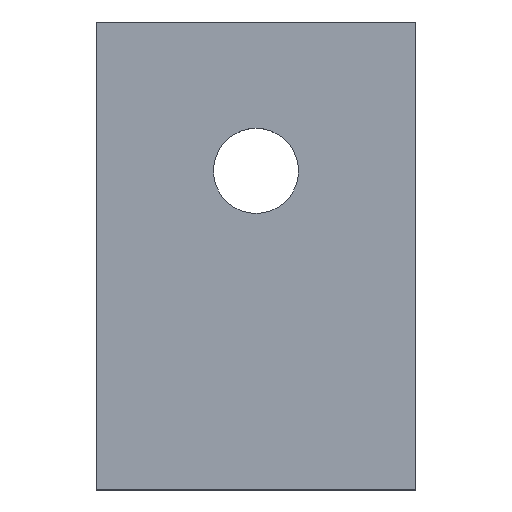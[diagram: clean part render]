
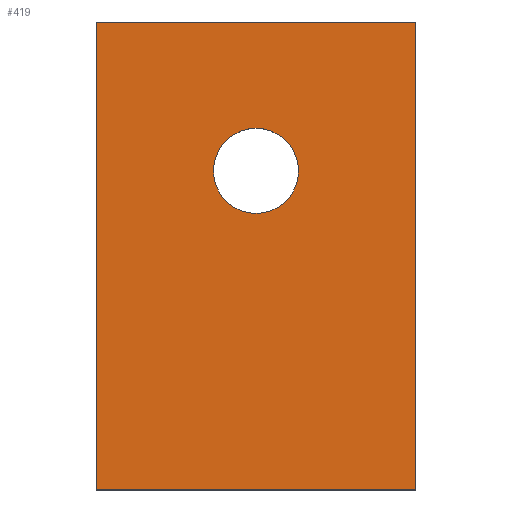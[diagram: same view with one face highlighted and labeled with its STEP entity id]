
A CAD part, top view. The second image highlights one B-rep face of the part: STEP entity #419.
In plain terms, the highlighted planar face has unit normal (0, 0, 1).
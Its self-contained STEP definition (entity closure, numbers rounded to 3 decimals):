
#24 = VERTEX_POINT('',#25);
#25 = CARTESIAN_POINT('',(-75.,0.,20.));
#32 = PLANE('',#33);
#33 = AXIS2_PLACEMENT_3D('',#34,#35,#36);
#34 = CARTESIAN_POINT('',(-75.,0.,0.));
#35 = DIRECTION('',(0.,1.,0.));
#36 = DIRECTION('',(1.,0.,0.));
#44 = PLANE('',#45);
#45 = AXIS2_PLACEMENT_3D('',#46,#47,#48);
#46 = CARTESIAN_POINT('',(-75.,220.,0.));
#47 = DIRECTION('',(1.,0.,-0.));
#48 = DIRECTION('',(0.,-1.,0.));
#56 = EDGE_CURVE('',#24,#57,#59,.T.);
#57 = VERTEX_POINT('',#58);
#58 = CARTESIAN_POINT('',(75.,0.,20.));
#59 = SURFACE_CURVE('',#60,(#64,#71),.PCURVE_S1.);
#60 = LINE('',#61,#62);
#61 = CARTESIAN_POINT('',(-75.,0.,20.));
#62 = VECTOR('',#63,1.);
#63 = DIRECTION('',(1.,0.,0.));
#64 = PCURVE('',#32,#65);
#65 = DEFINITIONAL_REPRESENTATION('',(#66),#70);
#66 = LINE('',#67,#68);
#67 = CARTESIAN_POINT('',(0.,-20.));
#68 = VECTOR('',#69,1.);
#69 = DIRECTION('',(1.,0.));
#70 = ( GEOMETRIC_REPRESENTATION_CONTEXT(2) 
PARAMETRIC_REPRESENTATION_CONTEXT() REPRESENTATION_CONTEXT('2D SPACE',''
  ) );
#71 = PCURVE('',#72,#77);
#72 = PLANE('',#73);
#73 = AXIS2_PLACEMENT_3D('',#74,#75,#76);
#74 = CARTESIAN_POINT('',(0.,110.,20.));
#75 = DIRECTION('',(0.,0.,1.));
#76 = DIRECTION('',(1.,0.,-0.));
#77 = DEFINITIONAL_REPRESENTATION('',(#78),#82);
#78 = LINE('',#79,#80);
#79 = CARTESIAN_POINT('',(-75.,-110.));
#80 = VECTOR('',#81,1.);
#81 = DIRECTION('',(1.,0.));
#82 = ( GEOMETRIC_REPRESENTATION_CONTEXT(2) 
PARAMETRIC_REPRESENTATION_CONTEXT() REPRESENTATION_CONTEXT('2D SPACE',''
  ) );
#100 = PLANE('',#101);
#101 = AXIS2_PLACEMENT_3D('',#102,#103,#104);
#102 = CARTESIAN_POINT('',(75.,0.,0.));
#103 = DIRECTION('',(-1.,0.,0.));
#104 = DIRECTION('',(0.,1.,0.));
#142 = EDGE_CURVE('',#57,#143,#145,.T.);
#143 = VERTEX_POINT('',#144);
#144 = CARTESIAN_POINT('',(75.,220.,20.));
#145 = SURFACE_CURVE('',#146,(#150,#157),.PCURVE_S1.);
#146 = LINE('',#147,#148);
#147 = CARTESIAN_POINT('',(75.,0.,20.));
#148 = VECTOR('',#149,1.);
#149 = DIRECTION('',(0.,1.,0.));
#150 = PCURVE('',#100,#151);
#151 = DEFINITIONAL_REPRESENTATION('',(#152),#156);
#152 = LINE('',#153,#154);
#153 = CARTESIAN_POINT('',(0.,-20.));
#154 = VECTOR('',#155,1.);
#155 = DIRECTION('',(1.,0.));
#156 = ( GEOMETRIC_REPRESENTATION_CONTEXT(2) 
PARAMETRIC_REPRESENTATION_CONTEXT() REPRESENTATION_CONTEXT('2D SPACE',''
  ) );
#157 = PCURVE('',#72,#158);
#158 = DEFINITIONAL_REPRESENTATION('',(#159),#163);
#159 = LINE('',#160,#161);
#160 = CARTESIAN_POINT('',(75.,-110.));
#161 = VECTOR('',#162,1.);
#162 = DIRECTION('',(0.,1.));
#163 = ( GEOMETRIC_REPRESENTATION_CONTEXT(2) 
PARAMETRIC_REPRESENTATION_CONTEXT() REPRESENTATION_CONTEXT('2D SPACE',''
  ) );
#181 = PLANE('',#182);
#182 = AXIS2_PLACEMENT_3D('',#183,#184,#185);
#183 = CARTESIAN_POINT('',(75.,220.,0.));
#184 = DIRECTION('',(0.,-1.,0.));
#185 = DIRECTION('',(-1.,0.,0.));
#218 = EDGE_CURVE('',#143,#219,#221,.T.);
#219 = VERTEX_POINT('',#220);
#220 = CARTESIAN_POINT('',(-75.,220.,20.));
#221 = SURFACE_CURVE('',#222,(#226,#233),.PCURVE_S1.);
#222 = LINE('',#223,#224);
#223 = CARTESIAN_POINT('',(75.,220.,20.));
#224 = VECTOR('',#225,1.);
#225 = DIRECTION('',(-1.,0.,0.));
#226 = PCURVE('',#181,#227);
#227 = DEFINITIONAL_REPRESENTATION('',(#228),#232);
#228 = LINE('',#229,#230);
#229 = CARTESIAN_POINT('',(0.,-20.));
#230 = VECTOR('',#231,1.);
#231 = DIRECTION('',(1.,0.));
#232 = ( GEOMETRIC_REPRESENTATION_CONTEXT(2) 
PARAMETRIC_REPRESENTATION_CONTEXT() REPRESENTATION_CONTEXT('2D SPACE',''
  ) );
#233 = PCURVE('',#72,#234);
#234 = DEFINITIONAL_REPRESENTATION('',(#235),#239);
#235 = LINE('',#236,#237);
#236 = CARTESIAN_POINT('',(75.,110.));
#237 = VECTOR('',#238,1.);
#238 = DIRECTION('',(-1.,0.));
#239 = ( GEOMETRIC_REPRESENTATION_CONTEXT(2) 
PARAMETRIC_REPRESENTATION_CONTEXT() REPRESENTATION_CONTEXT('2D SPACE',''
  ) );
#289 = EDGE_CURVE('',#219,#24,#290,.T.);
#290 = SURFACE_CURVE('',#291,(#295,#302),.PCURVE_S1.);
#291 = LINE('',#292,#293);
#292 = CARTESIAN_POINT('',(-75.,220.,20.));
#293 = VECTOR('',#294,1.);
#294 = DIRECTION('',(0.,-1.,0.));
#295 = PCURVE('',#44,#296);
#296 = DEFINITIONAL_REPRESENTATION('',(#297),#301);
#297 = LINE('',#298,#299);
#298 = CARTESIAN_POINT('',(0.,-20.));
#299 = VECTOR('',#300,1.);
#300 = DIRECTION('',(1.,0.));
#301 = ( GEOMETRIC_REPRESENTATION_CONTEXT(2) 
PARAMETRIC_REPRESENTATION_CONTEXT() REPRESENTATION_CONTEXT('2D SPACE',''
  ) );
#302 = PCURVE('',#72,#303);
#303 = DEFINITIONAL_REPRESENTATION('',(#304),#308);
#304 = LINE('',#305,#306);
#305 = CARTESIAN_POINT('',(-75.,110.));
#306 = VECTOR('',#307,1.);
#307 = DIRECTION('',(0.,-1.));
#308 = ( GEOMETRIC_REPRESENTATION_CONTEXT(2) 
PARAMETRIC_REPRESENTATION_CONTEXT() REPRESENTATION_CONTEXT('2D SPACE',''
  ) );
#338 = VERTEX_POINT('',#339);
#339 = CARTESIAN_POINT('',(20.,150.,20.));
#346 = CYLINDRICAL_SURFACE('',#347,20.);
#347 = AXIS2_PLACEMENT_3D('',#348,#349,#350);
#348 = CARTESIAN_POINT('',(0.,150.,0.));
#349 = DIRECTION('',(-0.,-0.,-1.));
#350 = DIRECTION('',(1.,0.,-0.));
#365 = EDGE_CURVE('',#338,#338,#366,.T.);
#366 = SURFACE_CURVE('',#367,(#372,#379),.PCURVE_S1.);
#367 = CIRCLE('',#368,20.);
#368 = AXIS2_PLACEMENT_3D('',#369,#370,#371);
#369 = CARTESIAN_POINT('',(0.,150.,20.));
#370 = DIRECTION('',(0.,0.,1.));
#371 = DIRECTION('',(1.,0.,-0.));
#372 = PCURVE('',#346,#373);
#373 = DEFINITIONAL_REPRESENTATION('',(#374),#378);
#374 = LINE('',#375,#376);
#375 = CARTESIAN_POINT('',(-0.,-20.));
#376 = VECTOR('',#377,1.);
#377 = DIRECTION('',(-1.,0.));
#378 = ( GEOMETRIC_REPRESENTATION_CONTEXT(2) 
PARAMETRIC_REPRESENTATION_CONTEXT() REPRESENTATION_CONTEXT('2D SPACE',''
  ) );
#379 = PCURVE('',#72,#380);
#380 = DEFINITIONAL_REPRESENTATION('',(#381),#385);
#381 = CIRCLE('',#382,20.);
#382 = AXIS2_PLACEMENT_2D('',#383,#384);
#383 = CARTESIAN_POINT('',(0.,40.));
#384 = DIRECTION('',(1.,0.));
#385 = ( GEOMETRIC_REPRESENTATION_CONTEXT(2) 
PARAMETRIC_REPRESENTATION_CONTEXT() REPRESENTATION_CONTEXT('2D SPACE',''
  ) );
#419 = ADVANCED_FACE('',(#420,#426),#72,.T.);
#420 = FACE_BOUND('',#421,.T.);
#421 = EDGE_LOOP('',(#422,#423,#424,#425));
#422 = ORIENTED_EDGE('',*,*,#56,.T.);
#423 = ORIENTED_EDGE('',*,*,#142,.T.);
#424 = ORIENTED_EDGE('',*,*,#218,.T.);
#425 = ORIENTED_EDGE('',*,*,#289,.T.);
#426 = FACE_BOUND('',#427,.F.);
#427 = EDGE_LOOP('',(#428));
#428 = ORIENTED_EDGE('',*,*,#365,.T.);
